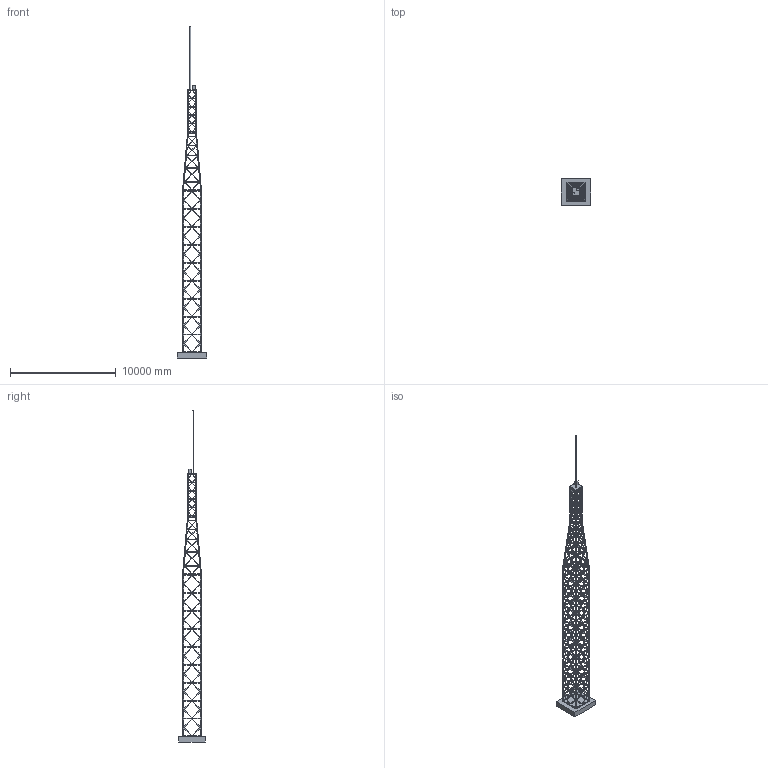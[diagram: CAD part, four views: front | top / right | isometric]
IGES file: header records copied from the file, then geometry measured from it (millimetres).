
Start section: START RECORD GO HERE.
Global section: file name: turn_solo.igs; native system: DASSAULT SYSTEMES CATIA Version 5-6 Release 2013 - www.3ds.com; preprocessor: V5-6R2013_5.23.0.0.10-18-2012.20.00; author: persinaru.alexandru; organization: INCAS; date: 20150521.161151; units: millimetre
Bounding box: 2793.71 x 2488.29 x 31365.14 mm (x, y, z)
Surface area: 141248905.3 mm2 (no closed solid volume)
Topology: 0 solids, 0 shells, 1191 faces, 7076 edges, 7076 vertices
Faces by surface type: plane 1189, revolution 2
